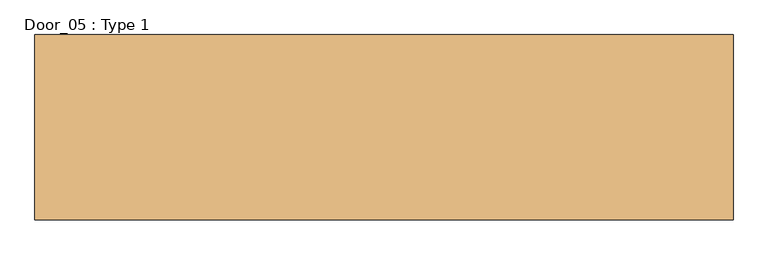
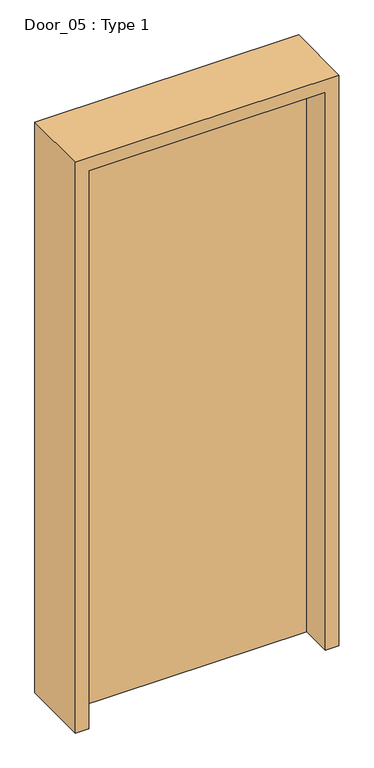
"""IFC4 building model written with IfcOpenShell, lengths in millimetres: door geometry, Door_05 : Type 1."""

from ifc_helpers import new_model, si_unit, frame, origin, origin_with_axes, place, context, project, spatial, polyline, outline, extrude, source, transform, mapped, element, save


def door_05_type_1_5e9864d1(model_context):
    return source(origin(), model_context, "Body", "SweptSolid", [
        extrude(outline(polyline([(466.5087813, -10.0), (-466.5087813, -10.0), (-466.5087813, 40.0), (466.5087813, 40.0), (466.5087813, -10.0)])), origin_with_axes(), (0.0, 0.0, 1.0), 2326.5087813),
        extrude(outline(polyline([(2380.0, -520.0), (0.0, -520.0), (0.0, -466.5087813), (2326.5087813, -466.5087813), (2326.5087813, 466.5087813), (0.0, 466.5087813), (0.0, 520.0), (2380.0, 520.0), (2380.0, -520.0)])), frame((0.0, -138.0, 0.0), z_axis=(0.0, 1.0, 0.0), x_axis=(0.0, 0.0, 1.0)), (0.0, 0.0, 1.0), 276.0),
    ])


if __name__ == "__main__":
    model = new_model("IFC4")
    model_context = context("Model", 3, world=origin())
    ifc_project = project(units=[si_unit("LENGTHUNIT", "METRE", prefix="MILLI")], contexts=[model_context])
    site = spatial("IfcSite", under=ifc_project)
    building = spatial("IfcBuilding", under=site)
    placement = place(None, origin())
    door_05_type_1_shape = door_05_type_1_5e9864d1(model_context)
    element("IfcDoor", 1, ObjectType="Door_05 : Type 1", at=placement, inside=building, context=model_context, shape_type="MappedRepresentation", body=[
        mapped(door_05_type_1_shape, transform((0.0, 0.0, 0.0), x_axis=(1.0, 0.0, 0.0), y_axis=(0.0, 1.0, 0.0), z_axis=(0.0, 0.0, 1.0))),
    ])
    save(model, "model.ifc")
